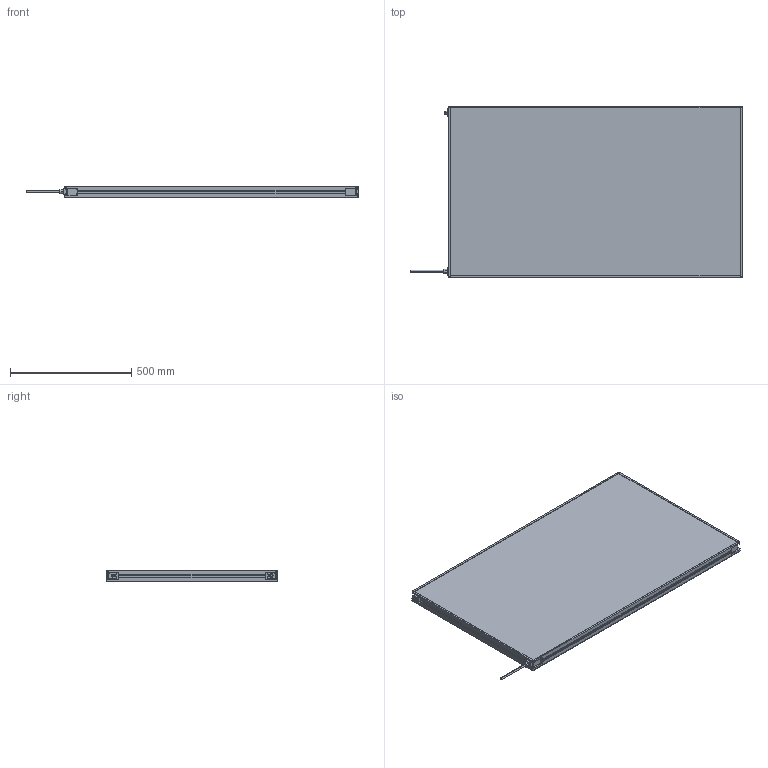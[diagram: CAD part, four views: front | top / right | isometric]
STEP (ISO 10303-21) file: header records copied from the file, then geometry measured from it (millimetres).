
FILE_DESCRIPTION (( 'STEP AP214' ), '1' );
FILE_NAME ('MBACK-xxxx-xxx-M1A2_CLIENT700x1200.STEP', '2022-04-01T11:49:22', ( '' ), ( '' ), 'SwSTEP 2.0', 'SolidWorks 2020', '' );
FILE_SCHEMA (( 'AUTOMOTIVE_DESIGN' ));
Length unit declared in the file: millimetre
Products named in the file (1): MBACK-xxxx-xxx-M1A2_CLIENT700x1200
Bounding box: 1367.4 x 708 x 45.5 mm (x, y, z)
Volume: 35655333.1 mm3; surface area: 1971027.4 mm2
Topology: 1 solids, 1 shells, 470 faces, 1210 edges, 804 vertices
Faces by surface type: plane 265, cylinder 117, bspline 80, cone 8
Entity records: 18046 total; most frequent: CARTESIAN_POINT 6837, ORIENTED_EDGE 2420, DIRECTION 2082, EDGE_CURVE 1210, VERTEX_POINT 804, LINE 800, VECTOR 800, AXIS2_PLACEMENT_3D 641
